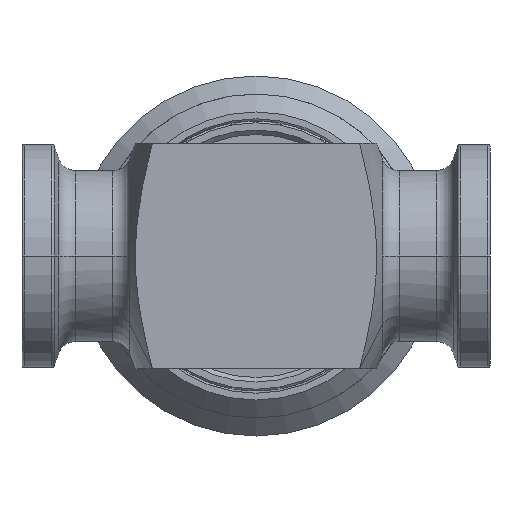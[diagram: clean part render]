
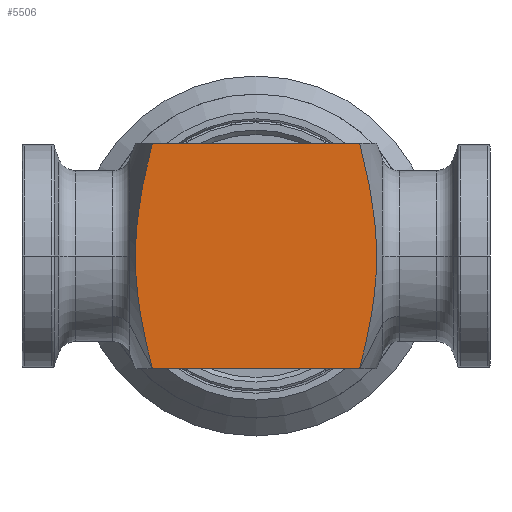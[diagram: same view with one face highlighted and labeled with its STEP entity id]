
A CAD part, front view. The second image highlights one B-rep face of the part: STEP entity #5506.
In plain terms, the highlighted planar face has unit normal (0, -1, 0).
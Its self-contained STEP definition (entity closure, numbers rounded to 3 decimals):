
#2=CARTESIAN_POINT('',(-11.524,-12.5,-12.5));
#18=CARTESIAN_POINT('',(11.524,-12.5,-12.5));
#886=CARTESIAN_POINT('',(-11.524,-12.5,12.5));
#887=CARTESIAN_POINT('',(-11.748,-12.5,11.629));
#888=CARTESIAN_POINT('',(-12.15,-12.5,9.973));
#889=CARTESIAN_POINT('',(-12.606,-12.5,7.808));
#890=CARTESIAN_POINT('',(-12.956,-12.5,5.802));
#891=CARTESIAN_POINT('',(-13.212,-12.5,3.863));
#892=CARTESIAN_POINT('',(-13.371,-12.5,1.936));
#893=CARTESIAN_POINT('',(-13.426,-12.5,-0.002));
#894=CARTESIAN_POINT('',(-13.371,-12.5,-1.94));
#895=CARTESIAN_POINT('',(-13.211,-12.5,-3.868));
#896=CARTESIAN_POINT('',(-12.955,-12.5,-5.805));
#897=CARTESIAN_POINT('',(-12.606,-12.5,-7.809));
#898=CARTESIAN_POINT('',(-12.15,-12.5,-9.972));
#899=CARTESIAN_POINT('',(-11.748,-12.5,-11.628));
#900=CARTESIAN_POINT('',(-11.524,-12.5,-12.5));
#902=CARTESIAN_POINT('',(11.524,-12.5,12.5));
#903=CARTESIAN_POINT('',(11.732,-12.5,11.692));
#904=CARTESIAN_POINT('',(12.107,-12.5,10.155));
#905=CARTESIAN_POINT('',(12.541,-12.5,8.13));
#906=CARTESIAN_POINT('',(12.882,-12.5,6.256));
#907=CARTESIAN_POINT('',(13.141,-12.5,4.456));
#908=CARTESIAN_POINT('',(13.319,-12.5,2.677));
#909=CARTESIAN_POINT('',(13.412,-12.5,0.892));
#910=CARTESIAN_POINT('',(13.412,-12.5,-0.897));
#911=CARTESIAN_POINT('',(13.319,-12.5,-2.681));
#912=CARTESIAN_POINT('',(13.14,-12.5,-4.46));
#913=CARTESIAN_POINT('',(12.881,-12.5,-6.259));
#914=CARTESIAN_POINT('',(12.541,-12.5,-8.13));
#915=CARTESIAN_POINT('',(12.107,-12.5,-10.154));
#916=CARTESIAN_POINT('',(11.732,-12.5,-11.692));
#917=CARTESIAN_POINT('',(11.524,-12.5,-12.5));
#919=DIRECTION('',(-1.,0.,0.));
#920=VECTOR('',#919,23.047);
#921=CARTESIAN_POINT('',(11.524,-12.5,-12.5));
#922=LINE('',#921,#920);
#956=DIRECTION('',(-1.,0.,0.));
#957=VECTOR('',#956,23.047);
#958=CARTESIAN_POINT('',(11.524,-12.5,12.5));
#959=LINE('',#958,#957);
#4447=VERTEX_POINT('',#18);
#4449=VERTEX_POINT('',#902);
#4451=VERTEX_POINT('',#2);
#4453=VERTEX_POINT('',#886);
#5492=CARTESIAN_POINT('',(14.5,-12.5,-12.5));
#5493=DIRECTION('',(0.,-1.,0.));
#5494=DIRECTION('',(0.,0.,1.));
#5495=AXIS2_PLACEMENT_3D('',#5492,#5493,#5494);
#5496=PLANE('',#5495);
#5498=ORIENTED_EDGE('',*,*,#5497,.F.);
#5500=ORIENTED_EDGE('',*,*,#5499,.F.);
#5502=ORIENTED_EDGE('',*,*,#5501,.T.);
#5503=ORIENTED_EDGE('',*,*,#5155,.T.);
#5504=EDGE_LOOP('',(#5498,#5500,#5502,#5503));
#5505=FACE_OUTER_BOUND('',#5504,.F.);
#5506=ADVANCED_FACE('',(#5505),#5496,.T.);
#901=B_SPLINE_CURVE_WITH_KNOTS('',3,(#886,#887,#888,#889,#890,#891,#892,#893,
#894,#895,#896,#897,#898,#899,#900),.UNSPECIFIED.,.F.,.F.,(4,1,1,1,1,1,1,1,1,1,
1,1,4),(0.,0.083,0.167,0.25,0.333,
0.417,0.5,0.583,0.667,0.75,
0.833,0.917,1.),.UNSPECIFIED.);
#918=B_SPLINE_CURVE_WITH_KNOTS('',3,(#902,#903,#904,#905,#906,#907,#908,#909,
#910,#911,#912,#913,#914,#915,#916,#917),.UNSPECIFIED.,.F.,.F.,(4,1,1,1,1,1,1,1,
1,1,1,1,1,4),(0.,0.077,0.154,0.231,
0.308,0.385,0.462,0.538,
0.615,0.692,0.769,0.846,
0.923,1.),.UNSPECIFIED.);
#5155=EDGE_CURVE('',#4447,#4451,#922,.T.);
#5497=EDGE_CURVE('',#4453,#4451,#901,.T.);
#5499=EDGE_CURVE('',#4449,#4453,#959,.T.);
#5501=EDGE_CURVE('',#4449,#4447,#918,.T.);
